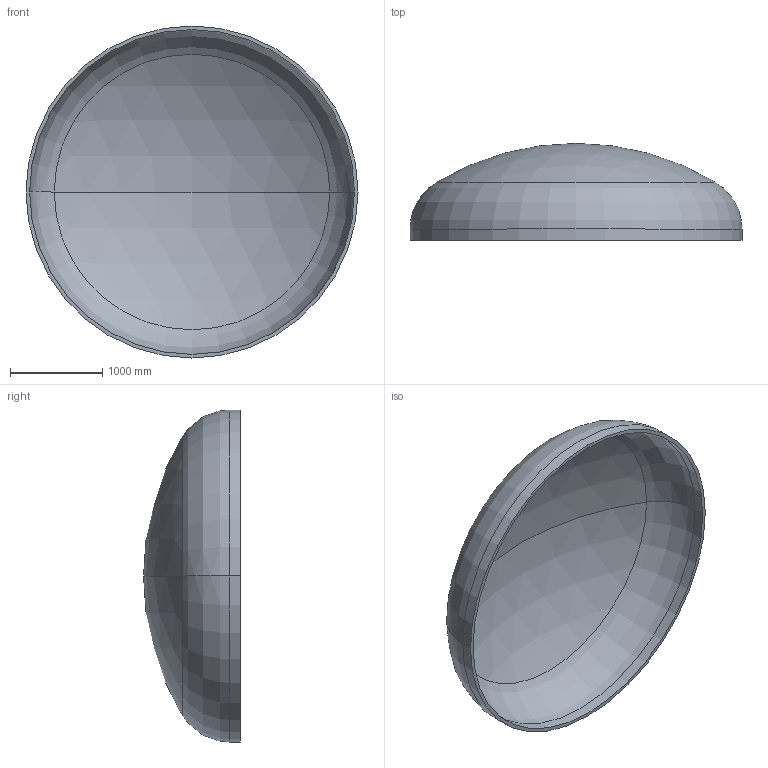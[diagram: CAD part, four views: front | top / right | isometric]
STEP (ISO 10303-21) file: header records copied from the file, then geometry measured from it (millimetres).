
FILE_DESCRIPTION (( 'STEP AP203' ), '1' );
FILE_NAME ('DIN 28013 Korbbogenform_-_Boden DIN 28013 - 3600 x 120 - I - s=39.step', '2016-07-01T20:23:59', ( '' ), ( '' ), 'SwSTEP 2.0', 'SolidWorks 2013', '' );
FILE_SCHEMA (( 'CONFIG_CONTROL_DESIGN' ));
Length unit declared in the file: millimetre
Products named in the file (1): DIN 28013 Korbbogenform_-_Boden DIN 28013 - 3600 x 120 - I - s=39
Bounding box: 3600 x 1051.24 x 3600 mm (x, y, z)
Volume: 594450818.3 mm3; surface area: 30924133.1 mm2
Topology: 1 solids, 1 shells, 13 faces, 24 edges, 14 vertices
Faces by surface type: torus 4, cylinder 4, sphere 4, plane 1
Entity records: 407 total; most frequent: DIRECTION 72, CARTESIAN_POINT 52, ORIENTED_EDGE 48, AXIS2_PLACEMENT_3D 34, EDGE_CURVE 24, CIRCLE 20, VERTEX_POINT 14, EDGE_LOOP 14
